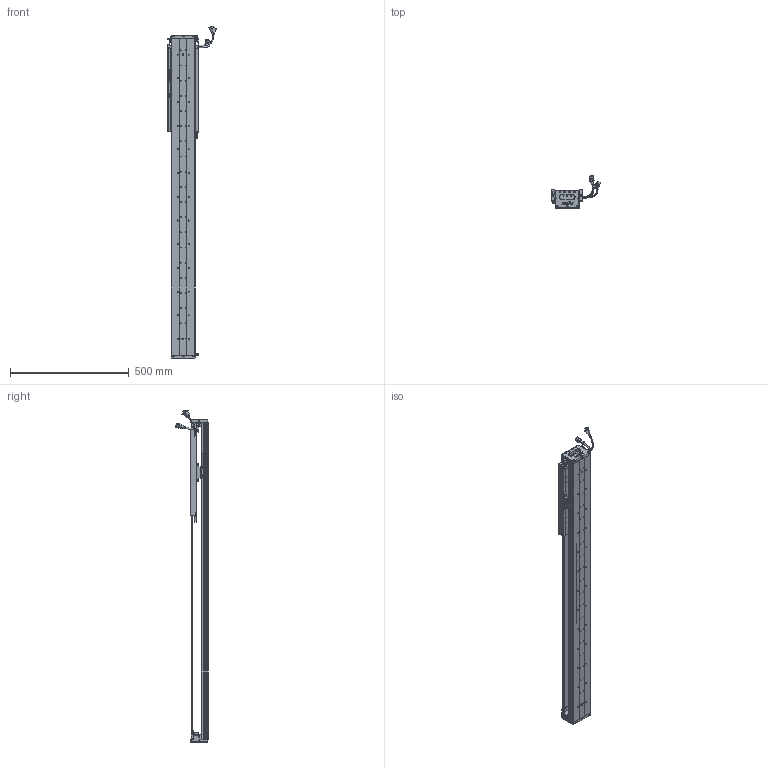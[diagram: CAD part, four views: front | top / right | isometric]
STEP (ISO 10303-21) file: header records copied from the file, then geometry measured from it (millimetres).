
FILE_DESCRIPTION (( 'STEP AP203' ), '1' );
FILE_NAME ('Z5-RY100D-1-L500-B-K.SLDASM_0900.step', '2021-05-17T03:32:52', ( '盈信电脑' ), ( '东莞市道滘镇水果街19号' ), 'SwSTEP 2.0', 'SolidWorks 2016', '' );
FILE_SCHEMA (( 'CONFIG_CONTROL_DESIGN' ));
Length unit declared in the file: millimetre
Products named in the file (36): Z5-RY100铝滑块（21款）; 080黍杅芛假蚾釱21遴; SCREW-M1.7-1; COVER; HARNESS; SCREW-M1.6; 140雄赽晤鎢ん堤盄; SCREW-M1.6-1; HOLDER0; Z-RY100D詩湍奻揤裔; HARNESS-Part-2; Z-RY100D詩湍狟揤裔; SCREW-M1.7; PBU_SHEET; Z5-RY100D-1-L500-B-K.SLDASM_0900; Z-100詩湍傷裔啣; SCALE-Part-1; SCREW-M1.6-3; LABEL; Z5-RY100D-500-倰第菁釱_0900; 覜茼ん672; SCALE-Part-2; SCREW-M1.6-2; 榋妏寠巭燃_暯_M2_2; HARNESS-Part-1; COVER-Part-1; PSLH080_PSLF2; Z-RY100D覜茼んえ; LABEL-Part-1; SEAL-Part-1; SCALE; SHIELDPLATE; SEAL; 100-Z-臏賑輸盄裔(21遴); 140蚥薯蝶輸; Z5-RY100-L500詩湍90mm遵_0900
Assembly tree (43 placements, depth 4):
  Z5-RY100D-1-L500-B-K.SLDASM_0900
    Z5-RY100D-500-倰第菁釱_0900
    Z5-RY100铝滑块（21款）
    PSLH080_PSLF2
      SCALE
        SCALE-Part-1
        SCALE-Part-2
      HARNESS
        HARNESS-Part-1
        HARNESS-Part-2
      LABEL
        LABEL-Part-1
      COVER
        COVER-Part-1
      SEAL
        SEAL-Part-1
      榋妏寠巭燃_暯_M2_2
      SHIELDPLATE
      SCREW-M1.7
      SCREW-M1.7-1
      PBU_SHEET
      SCREW-M1.6
      SCREW-M1.6-1
      SCREW-M1.6-2
      SCREW-M1.6-3
      HOLDER0
    080黍杅芛假蚾釱21遴
    Z-100詩湍傷裔啣  x2
    140蚥薯蝶輸  x2
    覜茼ん672  x3
    Z-RY100D覜茼んえ  x3
    100-Z-臏賑輸盄裔(21遴)
    140雄赽晤鎢ん堤盄
    Z5-RY100-L500詩湍90mm遵_0900
    Z-RY100D詩湍狟揤裔  x2
    Z-RY100D詩湍奻揤裔  x2
Bounding box: 205.84 x 136.11 x 1400.43 mm (x, y, z)
Volume: 3069304 mm3; surface area: 1148096.4 mm2
Topology: 38 solids, 38 shells, 2667 faces, 7051 edges, 4468 vertices
Faces by surface type: cylinder 1186, plane 1133, cone 226, torus 69, bspline 53
Entity records: 73393 total; most frequent: CARTESIAN_POINT 15435, DIRECTION 11673, ORIENTED_EDGE 10982, EDGE_CURVE 5491, AXIS2_PLACEMENT_3D 4314, VERTEX_POINT 3536, LINE 3045, VECTOR 3045
